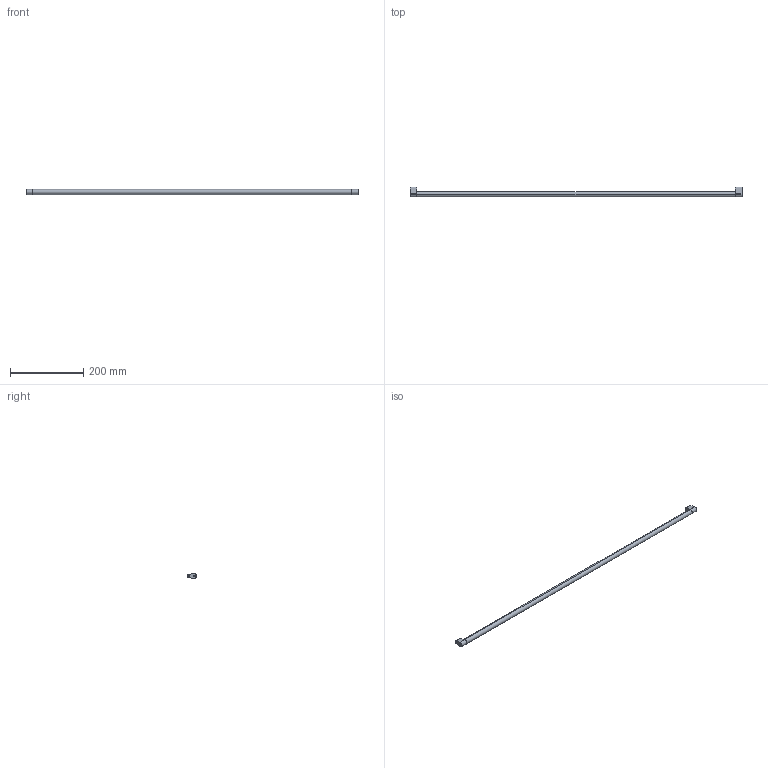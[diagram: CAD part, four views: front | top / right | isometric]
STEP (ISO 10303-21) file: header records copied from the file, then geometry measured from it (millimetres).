
FILE_DESCRIPTION (( 'STEP AP214' ), '1' );
FILE_NAME ('_Synchronisationseinheit Nova Pro KAB1000_S19.step', '2010-07-08T13:58:49', ( 'grass' ), ( '' ), 'SwSTEP 2.0', 'SolidWorks 2010', '' );
FILE_SCHEMA (( 'AUTOMOTIVE_DESIGN' ));
Length unit declared in the file: millimetre
Products named in the file (1): _Synchronisationseinheit Nova Pro KAB1000_S19
Bounding box: 909 x 26.5 x 14 mm (x, y, z)
Volume: 143616.5 mm3; surface area: 42826.9 mm2
Topology: 3 solids, 3 shells, 36 faces, 78 edges, 52 vertices
Faces by surface type: cylinder 18, plane 18
Entity records: 1050 total; most frequent: DIRECTION 188, CARTESIAN_POINT 167, ORIENTED_EDGE 156, EDGE_CURVE 78, AXIS2_PLACEMENT_3D 73, VERTEX_POINT 52, VECTOR 42, LINE 42
